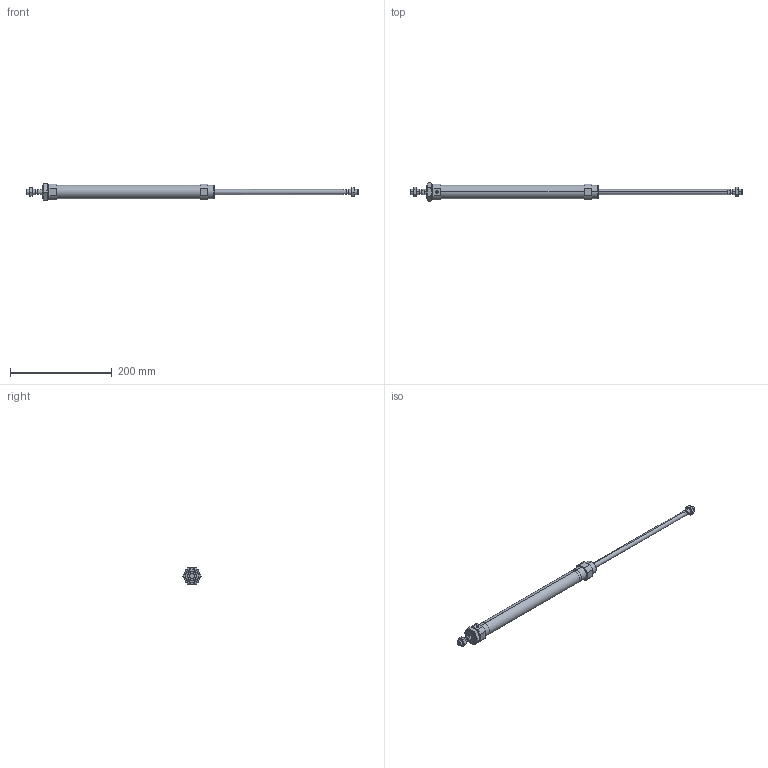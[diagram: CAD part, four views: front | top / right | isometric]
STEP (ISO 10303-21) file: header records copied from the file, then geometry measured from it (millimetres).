
FILE_DESCRIPTION (( 'STEP AP203' ), '1' );
FILE_NAME ('CSM2B25-250-P.STEP', '2020-07-20T16:44:52', ( '' ), ( '' ), 'SwSTEP 2.0', 'SolidWorks 2019', '' );
FILE_SCHEMA (( 'CONFIG_CONTROL_DESIGN' ));
Length unit declared in the file: millimetre
Products named in the file (1): CSM2B25-250-P
Bounding box: 652 x 36.95 x 32 mm (x, y, z)
Volume: 120501.8 mm3; surface area: 80167.6 mm2
Topology: 5 solids, 5 shells, 152 faces, 356 edges, 223 vertices
Faces by surface type: plane 62, cylinder 46, cone 44
Entity records: 5355 total; most frequent: CARTESIAN_POINT 1796, DIRECTION 738, ORIENTED_EDGE 708, EDGE_CURVE 354, AXIS2_PLACEMENT_3D 291, VERTEX_POINT 223, EDGE_LOOP 175, LINE 156
